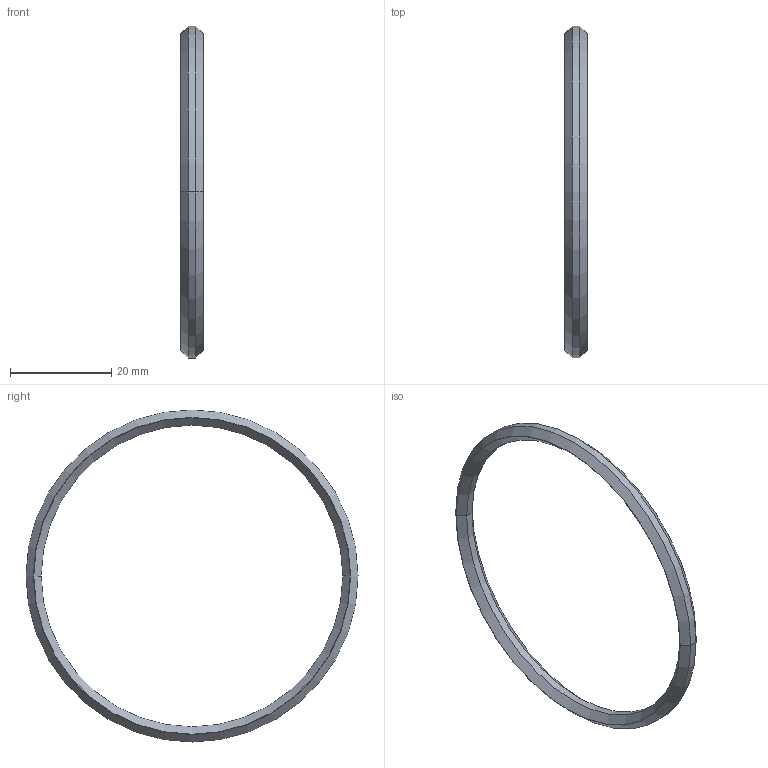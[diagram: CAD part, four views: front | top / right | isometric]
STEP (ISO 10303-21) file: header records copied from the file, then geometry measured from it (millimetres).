
FILE_DESCRIPTION((''),'2;1');
FILE_NAME('W:\211-170.stp','2003-10-08T15:35:18',('KAA'),(''),'Autodesk Inventor (R) 6.0','Autodesk Inventor (R) 6.0','');
FILE_SCHEMA(('CONFIG_CONTROL_DESIGN'));
Length unit declared in the file: millimetre
Products named in the file (1): 211-170
Bounding box: 4.46 x 65.6 x 65.6 mm (x, y, z)
Volume: 1769.8 mm3; surface area: 2250.3 mm2
Topology: 1 solids, 1 shells, 16 faces, 40 edges, 24 vertices
Faces by surface type: cone 8, cylinder 4, torus 4
Entity records: 587 total; most frequent: DIRECTION 102, CARTESIAN_POINT 81, ORIENTED_EDGE 80, AXIS2_PLACEMENT_3D 45, EDGE_CURVE 40, CIRCLE 28, VERTEX_POINT 24, EDGE_LOOP 16
